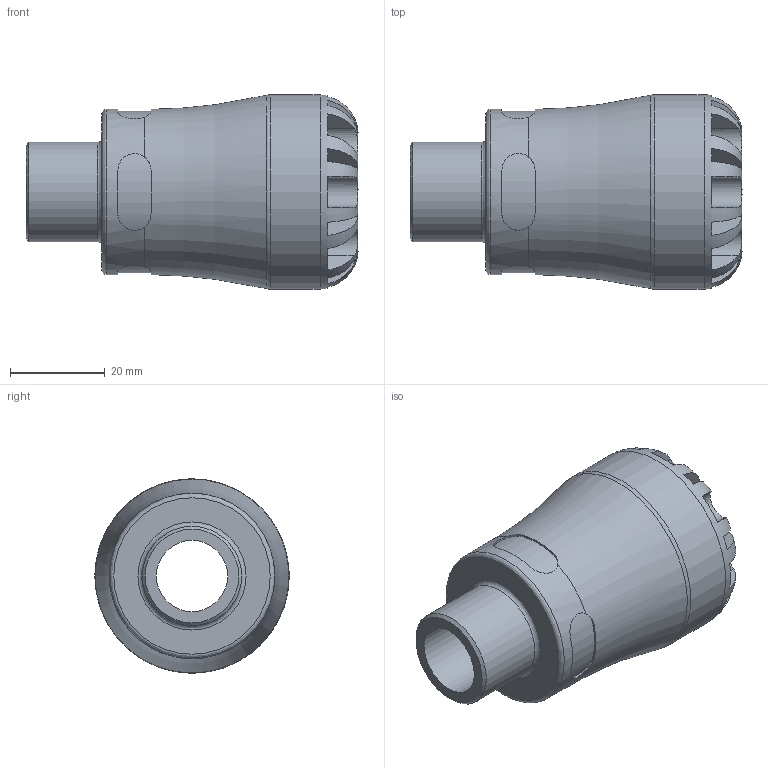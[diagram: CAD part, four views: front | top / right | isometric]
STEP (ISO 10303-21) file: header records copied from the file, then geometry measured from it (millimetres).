
FILE_DESCRIPTION(/* description */ ('PLASSON MALE ADAPTOR 20X1/2" SERIES 1'),/* implementation_level */ '2;1');
FILE_NAME(/* name */ 'C:\Dropbox\KIMPROJECTS-Inventor\99-16-3568-Processing\S1\1002\100200020005_190200020005.ipt.stp',/* time_stamp */ '2017-07-27T14:39:17+03:00',/* author */ ('KIM'),/* organization */ (''),/* preprocessor_version */ 'ST-DEVELOPER v15.6',/* originating_system */ 'Autodesk Inventor 2015',/* authorisation */ '');
FILE_SCHEMA (('AUTOMOTIVE_DESIGN { 1 0 10303 214 3 1 1 }'));
Length unit declared in the file: millimetre
Products named in the file (1): 100200020005_190200020005
Bounding box: 70 x 41 x 41 mm (x, y, z)
Volume: 44472.6 mm3; surface area: 14118.9 mm2
Topology: 1 solids, 1 shells, 100 faces, 257 edges, 161 vertices
Faces by surface type: plane 60, cylinder 33, torus 5, cone 2
Full cylindrical faces by diameter (mm): 15 x1, 20 x1, 20.955 x1, 34.85 x1, 41 x1
Entity records: 3792 total; most frequent: CARTESIAN_POINT 1473, ORIENTED_EDGE 484, DIRECTION 462, EDGE_CURVE 242, AXIS2_PLACEMENT_3D 191, VERTEX_POINT 158, EDGE_LOOP 116, FACE_OUTER_BOUND 100
